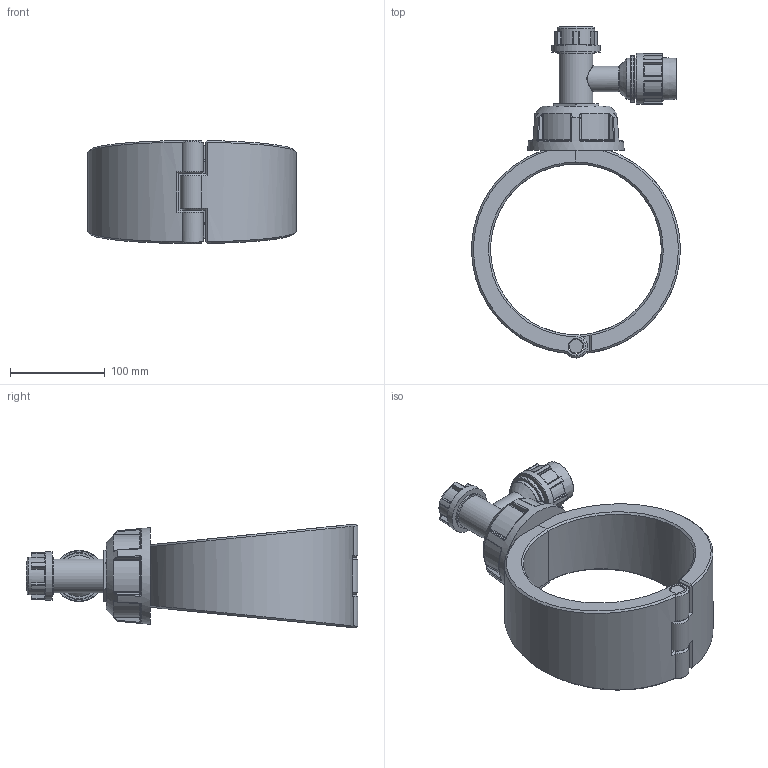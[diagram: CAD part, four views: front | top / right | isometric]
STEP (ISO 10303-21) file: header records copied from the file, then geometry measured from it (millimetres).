
FILE_DESCRIPTION(/* description */ ('Plassadle Tapper 180x25'),/* implementation_level */ '2;1');
FILE_NAME(/* name */ 'C:\Users\comp2\Dropbox\99-16-3568-Processing\Mechanical Fittings\16310\stp\1631061770250A.stp',/* time_stamp */ '2022-02-03T11:59:25+00:00',/* author */ ('comp2'),/* organization */ (''),/* preprocessor_version */ 'ST-DEVELOPER v17.2',/* originating_system */ 'Autodesk Inventor 2019',/* authorisation */ '');
FILE_SCHEMA (('AUTOMOTIVE_DESIGN { 1 0 10303 214 3 1 1 }','FEATURE_BASED_PROCESS_PLANNING'));
Length unit declared in the file: millimetre
Products named in the file (1): 1631061770250A
Bounding box: 219.88 x 349.99 x 109.6 mm (x, y, z)
Volume: 1576049.7 mm3; surface area: 206091.8 mm2
Topology: 4 solids, 4 shells, 519 faces, 1253 edges, 754 vertices
Faces by surface type: cylinder 184, plane 109, bspline 87, torus 83, sphere 40, cone 16
Full cylindrical faces by diameter (mm): 14.4 x1, 16.4 x3, 25 x1, 27 x1, 30.6 x1, 35.7 x1, 39.7 x2, 43.2 x2, 49.378 x1, 51 x1, 54 x1
Entity records: 18822 total; most frequent: CARTESIAN_POINT 7069, ORIENTED_EDGE 2508, DIRECTION 2426, EDGE_CURVE 1254, AXIS2_PLACEMENT_3D 1028, VERTEX_POINT 755, CIRCLE 563, EDGE_LOOP 537
